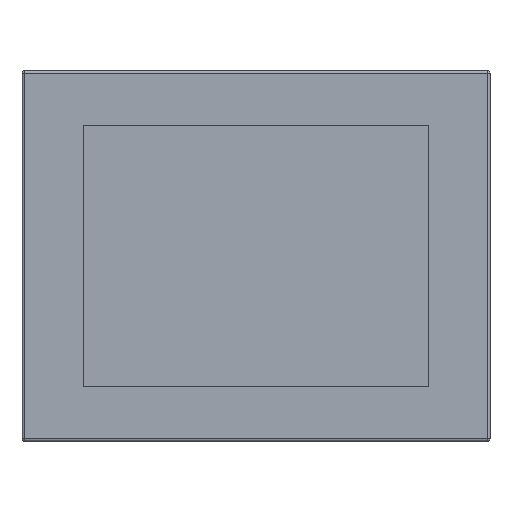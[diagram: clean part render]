
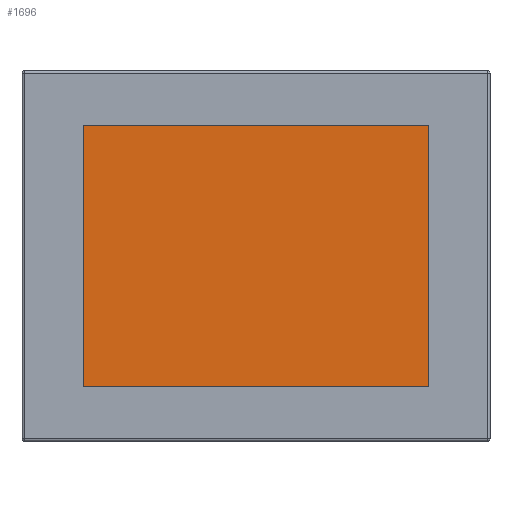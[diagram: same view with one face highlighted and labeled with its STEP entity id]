
A CAD part, top view. The second image highlights one B-rep face of the part: STEP entity #1696.
In plain terms, the highlighted planar face has unit normal (0, 0, 1).
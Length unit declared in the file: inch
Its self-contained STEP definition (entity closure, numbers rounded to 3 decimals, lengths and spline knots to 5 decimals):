
#194 = CARTESIAN_POINT ( 'NONE',  ( -6.06, 4.56, -0.095 ) ) ;
#212 = ORIENTED_EDGE ( 'NONE', *, *, #645, .T. ) ;
#222 = EDGE_CURVE ( 'NONE', #2346, #2799, #2629, .T. ) ;
#224 = EDGE_CURVE ( 'NONE', #986, #2346, #1434, .T. ) ;
#338 = CARTESIAN_POINT ( 'NONE',  ( -6.06, 4.56, -0.095 ) ) ;
#458 = DIRECTION ( 'NONE',  ( 0., 0., 1. ) ) ;
#459 = CARTESIAN_POINT ( 'NONE',  ( -6.06, -4.56, -0.095 ) ) ;
#494 = DIRECTION ( 'NONE',  ( -1., 0., 0. ) ) ;
#645 = EDGE_CURVE ( 'NONE', #3127, #986, #1809, .T. ) ;
#741 = EDGE_LOOP ( 'NONE', ( #2319, #212, #3234, #2592 ) ) ;
#788 = CARTESIAN_POINT ( 'NONE',  ( -6.06, 4.56, -0.095 ) ) ;
#810 = DIRECTION ( 'NONE',  ( 0., 1., 0. ) ) ;
#986 = VERTEX_POINT ( 'NONE', #2296 ) ;
#1198 = VECTOR ( 'NONE', #2693, 39.37008 ) ;
#1201 = CARTESIAN_POINT ( 'NONE',  ( -6.06, -4.56, -0.095 ) ) ;
#1284 = EDGE_CURVE ( 'NONE', #2799, #3127, #3675, .T. ) ;
#1373 = DIRECTION ( 'NONE',  ( 1., 0., 0. ) ) ;
#1434 = LINE ( 'NONE', #3878, #2826 ) ;
#1517 = VECTOR ( 'NONE', #494, 39.37008 ) ;
#1540 = AXIS2_PLACEMENT_3D ( 'NONE', #2906, #458, #1373 ) ;
#1611 = FACE_OUTER_BOUND ( 'NONE', #741, .T. ) ;
#1614 = PLANE ( 'NONE',  #1540 ) ;
#1696 = ADVANCED_FACE ( 'NONE', ( #1611 ), #1614, .T. ) ;
#1729 = DIRECTION ( 'NONE',  ( 0., -1., 0. ) ) ;
#1809 = LINE ( 'NONE', #1201, #1198 ) ;
#2296 = CARTESIAN_POINT ( 'NONE',  ( 6.06, -4.56, -0.095 ) ) ;
#2319 = ORIENTED_EDGE ( 'NONE', *, *, #1284, .T. ) ;
#2346 = VERTEX_POINT ( 'NONE', #3197 ) ;
#2592 = ORIENTED_EDGE ( 'NONE', *, *, #222, .T. ) ;
#2629 = LINE ( 'NONE', #194, #1517 ) ;
#2693 = DIRECTION ( 'NONE',  ( 1., 0., 0. ) ) ;
#2799 = VERTEX_POINT ( 'NONE', #338 ) ;
#2825 = VECTOR ( 'NONE', #1729, 39.37008 ) ;
#2826 = VECTOR ( 'NONE', #810, 39.37008 ) ;
#2906 = CARTESIAN_POINT ( 'NONE',  ( 0., 0., -0.095 ) ) ;
#3127 = VERTEX_POINT ( 'NONE', #459 ) ;
#3197 = CARTESIAN_POINT ( 'NONE',  ( 6.06, 4.56, -0.095 ) ) ;
#3234 = ORIENTED_EDGE ( 'NONE', *, *, #224, .T. ) ;
#3675 = LINE ( 'NONE', #788, #2825 ) ;
#3878 = CARTESIAN_POINT ( 'NONE',  ( 6.06, 4.56, -0.095 ) ) ;
